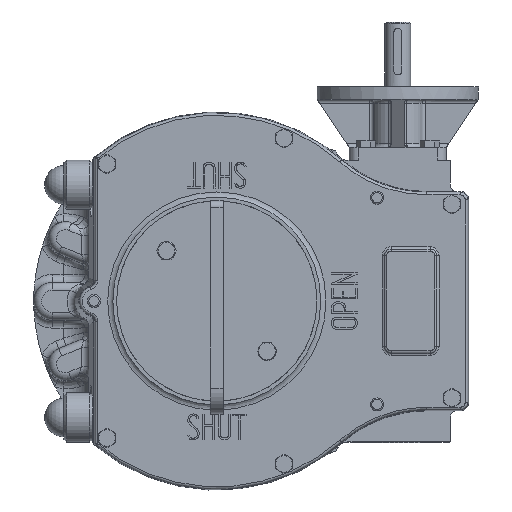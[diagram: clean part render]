
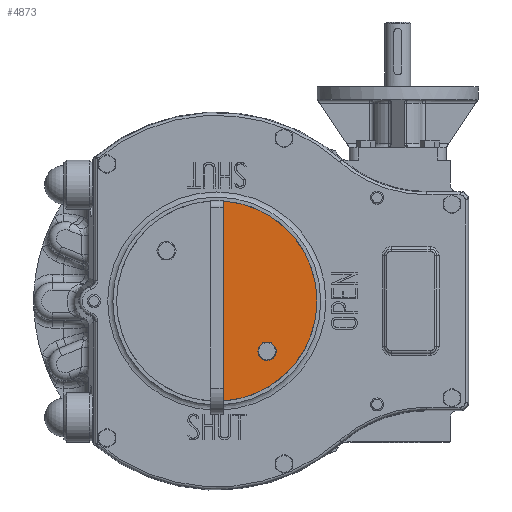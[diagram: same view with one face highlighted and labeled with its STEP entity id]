
A CAD part, top view. The second image highlights one B-rep face of the part: STEP entity #4873.
In plain terms, the highlighted planar face has unit normal (0, 0, 1).
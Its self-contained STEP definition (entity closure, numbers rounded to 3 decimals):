
#4873 = ADVANCED_FACE( '', ( #10128, #10129 ), #10130, .F. );
#10128 = FACE_BOUND( '', #40836, .T. );
#10129 = FACE_OUTER_BOUND( '', #40837, .T. );
#10130 = PLANE( '', #40838 );
#40836 = EDGE_LOOP( '', ( #54529 ) );
#40837 = EDGE_LOOP( '', ( #54530, #54531 ) );
#40838 = AXIS2_PLACEMENT_3D( '', #54532, #54533, #54534 );
#54529 = ORIENTED_EDGE( '', *, *, #57186, .T. );
#54530 = ORIENTED_EDGE( '', *, *, #55907, .F. );
#54531 = ORIENTED_EDGE( '', *, *, #57005, .F. );
#54532 = CARTESIAN_POINT( '', ( 0., 0., 119. ) );
#54533 = DIRECTION( '', ( 0., 0., -1. ) );
#54534 = DIRECTION( '', ( 0., -1., 0. ) );
#55907 = EDGE_CURVE( '', #61846, #61848, #61849, .T. );
#57005 = EDGE_CURVE( '', #61848, #61846, #63583, .T. );
#57186 = EDGE_CURVE( '', #63859, #63859, #63860, .T. );
#61846 = VERTEX_POINT( '', #73712 );
#61848 = VERTEX_POINT( '', #73715 );
#61849 = LINE( '', #73716, #73717 );
#63583 = CIRCLE( '', #79647, 77.5 );
#63859 = VERTEX_POINT( '', #80479 );
#63860 = CIRCLE( '', #80480, 7. );
#73712 = CARTESIAN_POINT( '', ( 5., -77.339, 119. ) );
#73715 = CARTESIAN_POINT( '', ( 5., 77.339, 119. ) );
#73716 = CARTESIAN_POINT( '', ( 5., -87.5, 119. ) );
#73717 = VECTOR( '', #95558, 1000. );
#79647 = AXIS2_PLACEMENT_3D( '', #96863, #96864, #96865 );
#80479 = CARTESIAN_POINT( '', ( 31.891, -38.891, 119. ) );
#80480 = AXIS2_PLACEMENT_3D( '', #97052, #97053, #97054 );
#95558 = DIRECTION( '', ( 0., 1., 0. ) );
#96863 = CARTESIAN_POINT( '', ( 0., 0., 119. ) );
#96864 = DIRECTION( '', ( 0., 0., -1. ) );
#96865 = DIRECTION( '', ( 0., 1., 0. ) );
#97052 = CARTESIAN_POINT( '', ( 38.891, -38.891, 119. ) );
#97053 = DIRECTION( '', ( 0., 0., -1. ) );
#97054 = DIRECTION( '', ( -1., 0., 0. ) );
